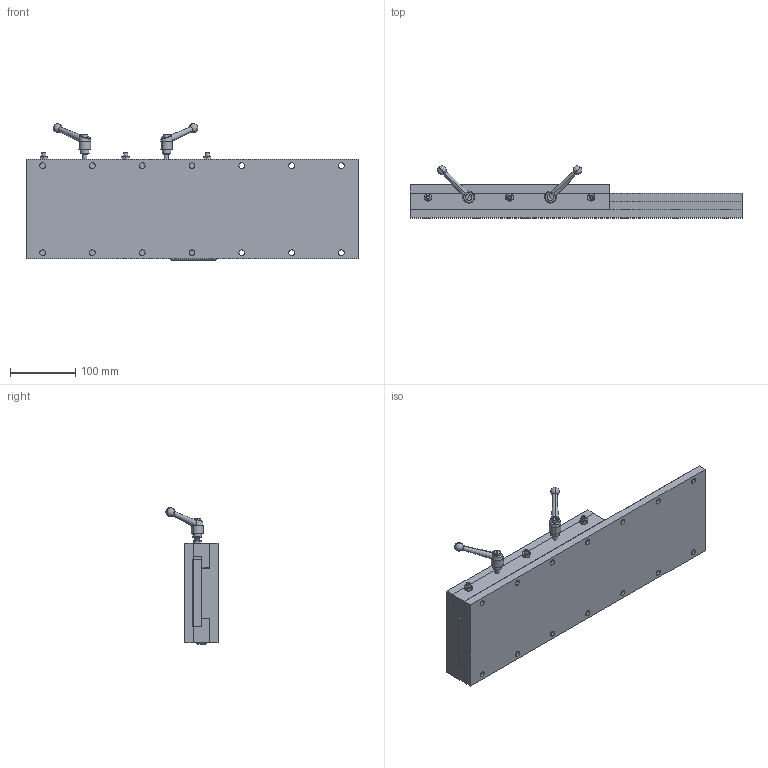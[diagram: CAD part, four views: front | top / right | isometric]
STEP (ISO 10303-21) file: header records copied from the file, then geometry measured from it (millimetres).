
FILE_DESCRIPTION (( 'STEP AP214' ), '1' );
FILE_NAME ('SW06-SL12-BL20-LH.STEP', '2011-06-16T19:32:25', ( '' ), ( '' ), 'SwSTEP 2.0', 'SolidWorks 2011', '' );
FILE_SCHEMA (( 'AUTOMOTIVE_DESIGN' ));
Length unit declared in the file: inch
Products named in the file (13): KHB_62; _MSHXNUT_MSHXNUT 0.250-28-D-N; _SSCUPSOC_SSCUPSKT 0.25-28x1.25-HX-N; Tag; Gen2 Bar_06x12 BAR; Gen2 Adj Gib_06x12 ADJ GIB; Gen2 Gib_06x12 GIB; Gen2 Top plate_06x12 TPLATE; Gen2 BASE_06x20 BASE; Gen2 Hardplate_06x20 HPLATE; Gen2 Baseplate_06x20 BASE; SW06-SL12-BL20-LH; Gen2 SADDLE_06x12 SADDLE with LOCK HANDLES
Assembly tree (17 placements, depth 3):
  SW06-SL12-BL20-LH
    Gen2 SADDLE_06x12 SADDLE with LOCK HANDLES
      Tag
      _MSHXNUT_MSHXNUT 0.250-28-D-N  x3
      _SSCUPSOC_SSCUPSKT 0.25-28x1.25-HX-N  x3
      Gen2 Bar_06x12 BAR
      KHB_62  x2
      Gen2 Top plate_06x12 TPLATE
      Gen2 Adj Gib_06x12 ADJ GIB
      Gen2 Gib_06x12 GIB
    Gen2 BASE_06x20 BASE
      Gen2 Baseplate_06x20 BASE
      Gen2 Hardplate_06x20 HPLATE
Bounding box: 508 x 79.66 x 208.89 mm (x, y, z)
Volume: 3191667.5 mm3; surface area: 620803.5 mm2
Topology: 20 solids, 20 shells, 389 faces, 884 edges, 549 vertices
Faces by surface type: plane 165, cylinder 126, cone 90, bspline 4, sphere 4
Entity records: 9558 total; most frequent: CARTESIAN_POINT 2297, DIRECTION 1379, ORIENTED_EDGE 1222, EDGE_CURVE 611, AXIS2_PLACEMENT_3D 524, VERTEX_POINT 394, EDGE_LOOP 345, LINE 331
